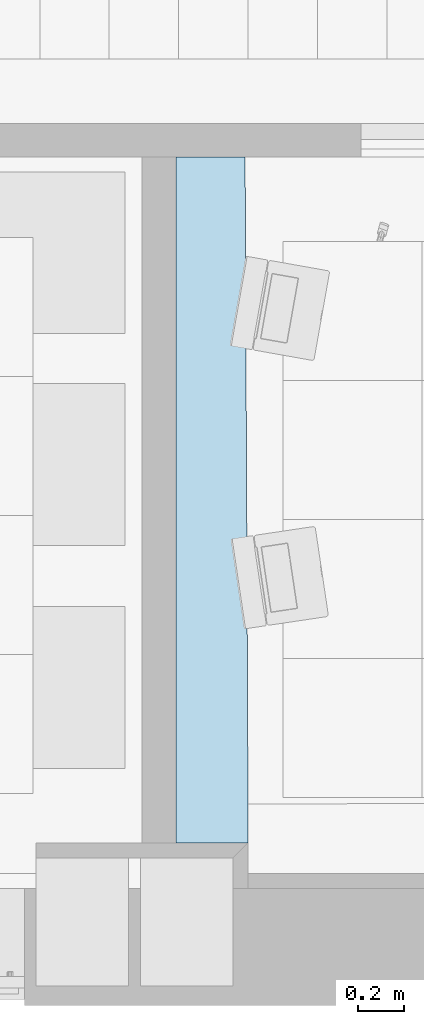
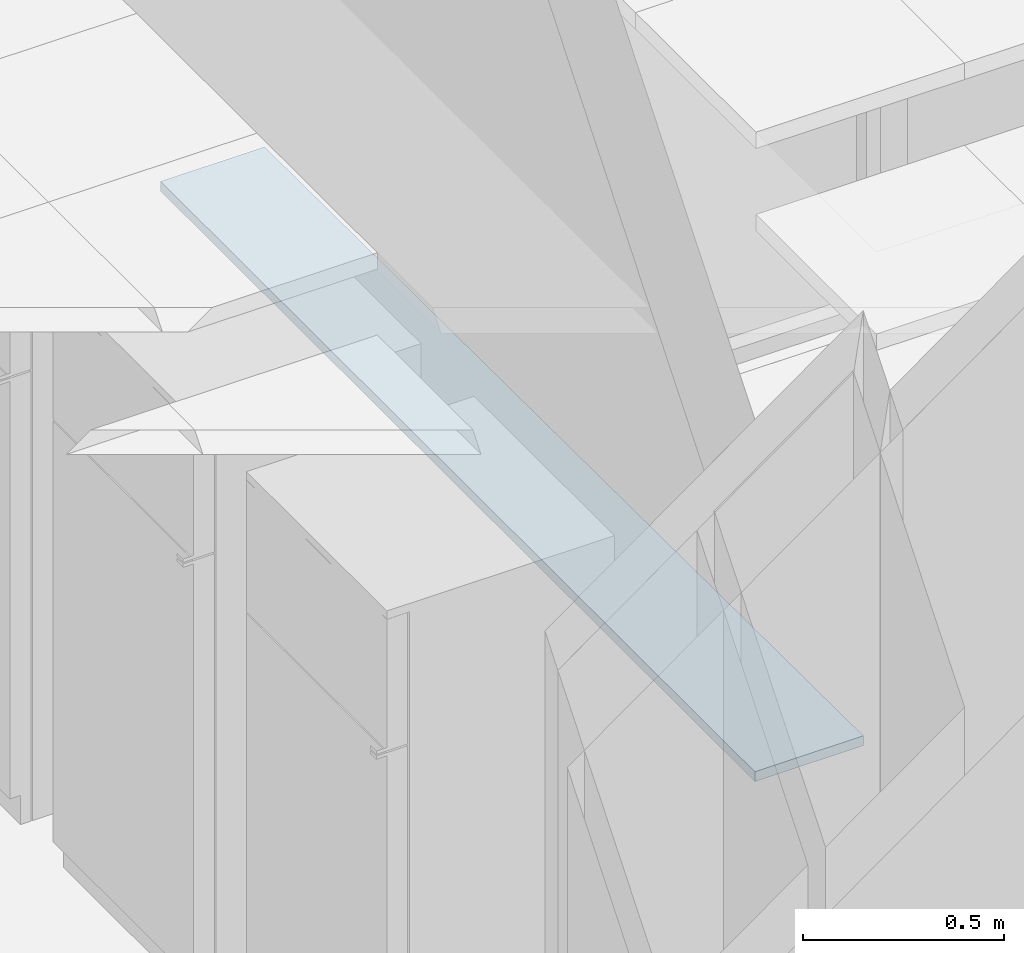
# One storey, part 6 of 60: 1 slab.
"""IFC2X3 building model written with IfcOpenShell, lengths in millimetres."""

from ifc_helpers import new_model, entity, si_unit, converted_unit, derived_unit, money_unit, direction, frame, origin_with_axes, place, context, subcontext, project, spatial, polyline, outline, extrude, material, layer, layer_set, layer_usage, type_object, element, save


model = new_model("IFC2X3")

# Units and contexts
model_context = context("Model", 3, precision=0.01, world=origin_with_axes(), true_north=direction((0.0, 1.0)))
body_context = subcontext(model_context, "Body", "Model", "MODEL_VIEW")
ifc_project = project(units=[si_unit("LENGTHUNIT", "METRE", prefix="MILLI"), si_unit("AREAUNIT", "SQUARE_METRE"), si_unit("VOLUMEUNIT", "CUBIC_METRE"), converted_unit("PLANEANGLEUNIT", "DEGREE", entity("IfcPlaneAngleMeasure", 0.0174532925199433), si_unit("PLANEANGLEUNIT", "RADIAN"), dimensions=[0, 0, 0, 0, 0, 0, 0]), money_unit("USD"), converted_unit("TIMEUNIT", "Year", entity("IfcTimeMeasure", 31557600.0), si_unit("TIMEUNIT", "SECOND"), dimensions=[0, 0, 1, 0, 0, 0, 0]), si_unit("MASSUNIT", "GRAM", prefix="KILO"), si_unit("THERMODYNAMICTEMPERATUREUNIT", "DEGREE_CELSIUS"), si_unit("LUMINOUSINTENSITYUNIT", "LUMEN"), si_unit("ENERGYUNIT", "JOULE", prefix="MEGA"), derived_unit("THERMALCONDUCTANCEUNIT", [(si_unit("POWERUNIT", "WATT"), 1), (si_unit("LENGTHUNIT", "METRE"), -1), (si_unit("THERMODYNAMICTEMPERATUREUNIT", "KELVIN"), -1)]), derived_unit("SPECIFICHEATCAPACITYUNIT", [(si_unit("ENERGYUNIT", "JOULE"), 1), (si_unit("MASSUNIT", "GRAM", prefix="KILO"), -1), (si_unit("THERMODYNAMICTEMPERATUREUNIT", "KELVIN"), -1)]), derived_unit("MASSDENSITYUNIT", [(si_unit("MASSUNIT", "GRAM", prefix="KILO"), 1), (si_unit("VOLUMEUNIT", "CUBIC_METRE"), -1)])], contexts=[model_context])

# Site, building, storey
site_placement = place(None, origin_with_axes())
site = spatial("IfcSite", under=ifc_project, at=site_placement, Name="Sitio", CompositionType="ELEMENT")
building_placement = place(site_placement, origin_with_axes())
building = spatial("IfcBuilding", under=site, at=building_placement, Name="Construcción", CompositionType="ELEMENT")
storey_placement = place(building_placement, frame((0.0, 0.0, 3650.0), z_axis=(0.0, 0.0, 1.0), x_axis=(1.0, 0.0, 0.0)))
storey = spatial("IfcBuildingStorey", under=building, at=storey_placement, Name="PLANTA 2ª", CompositionType="ELEMENT", Elevation=3650.0)

# Slab
ifc_material = material(Name="ARQ_FU091_HPL")
ifc_layer = layer(ifc_material, 30.0, ventilated="UNKNOWN")
ifc_layer_set = layer_set([ifc_layer], Name="ARQ_FU091_HPL 30")
ifc_layer_usage = layer_usage(ifc_layer_set, "AXIS3", "NEGATIVE", 30.0)
slab_type = type_object("IfcSlabType", Name="ARQ_FU091_HPL 30", PredefinedType="NOTDEFINED")
slab_placement = place(storey_placement, frame((-11983.67724681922, 1963.554870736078, 1200.000000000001), z_axis=(0.0, 0.0, 1.0), x_axis=(1.0, 0.0, 0.0)))
element("IfcSlab", 1, at=slab_placement, inside=storey, type_object=slab_type, material=ifc_layer_usage, Name="SLA - 011", PredefinedType="NOTDEFINED", context=body_context, shape_type="SweptSolid", body=[
    extrude(outline(polyline([(0.0, 0.0), (-299.1582440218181, 0.0), (-299.1582437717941, -2960.292917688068), (13.23613263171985, -2960.292917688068), (0.0, 0.0)])), frame((0.0, 0.0, -30.0), z_axis=(0.0, 0.0, 1.0), x_axis=(1.0, 0.0, 0.0)), (0.0, 0.0, 1.0), 30.0),
])

save(model, "model.ifc")
